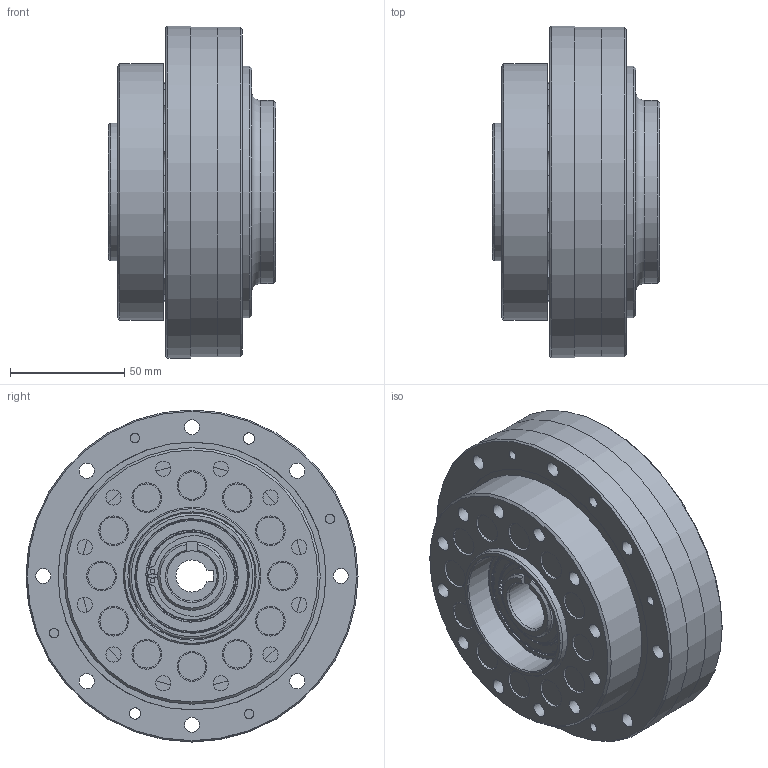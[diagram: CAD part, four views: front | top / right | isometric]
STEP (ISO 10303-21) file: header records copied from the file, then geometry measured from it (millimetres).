
FILE_DESCRIPTION(/* description */ ('Katalogmodell FC-A25G '),/* implementation_level */ '2;1');
FILE_NAME(/* name */ 'C:\Users\ADMINI~1\AppData\Local\Temp\MM16_01_02_Katalogmodell_FC-A25G_.stp',/* time_stamp */ '2018-06-12T17:11:38+02:00',/* author */ ('Max'),/* organization */ (''),/* preprocessor_version */ 'ST-DEVELOPER v17',/* originating_system */ 'Autodesk Inventor 2018',/* authorisation */ '');
FILE_SCHEMA (('AUTOMOTIVE_DESIGN { 1 0 10303 214 3 1 1 }'));
Length unit declared in the file: millimetre
Products named in the file (15): 16_01_02; MM554963-bg; MM133214; MMCN830LG; MMAW8612G; 201543; 241K055----NG; 5006006RS---G; M5006006RS-4; M5006006RS-3; M5006006RS-2; M5006006RS-1; 200331; MM133213; MM133206
Assembly tree (29 placements, depth 4):
  16_01_02
    MM554963-bg
      MM133214
      MMCN830LG
      MMAW8612G
      201543  x2
      241K055----NG
      5006006RS---G  x2
        M5006006RS-4
        M5006006RS-3
        M5006006RS-2
        M5006006RS-1
      200331  x4
    MM133213
    MM133206
Bounding box: 73 x 145 x 145 mm (x, y, z)
Volume: 702244.6 mm3; surface area: 187115.6 mm2
Topology: 40 solids, 40 shells, 406 faces, 1053 edges, 747 vertices
Faces by surface type: cylinder 182, plane 149, cone 32, sphere 22, torus 21
Full cylindrical faces by diameter (mm): 2 x4, 2.5 x2, 4.134 x4, 4.917 x2, 5 x4, 5.5 x4, 6.6 x28, 6.647 x2, 8.5 x4, 9.5 x4, 11 x12, 12 x12, 13 x12, 22 x1, 28.6 x2, 30 x6, 32.5 x1, 37 x1, 38.25 x6, 38.85 x2, 47.18 x4, 49 x1, 50.01 x6, 55 x6, 58 x1, 60 x1, 80 x1, 94 x1, 97 x1, 102 x1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
Entity records: 10253 total; most frequent: DIRECTION 1920, CARTESIAN_POINT 1648, ORIENTED_EDGE 1498, AXIS2_PLACEMENT_3D 847, EDGE_CURVE 749, VERTEX_POINT 536, CIRCLE 510, EDGE_LOOP 453
